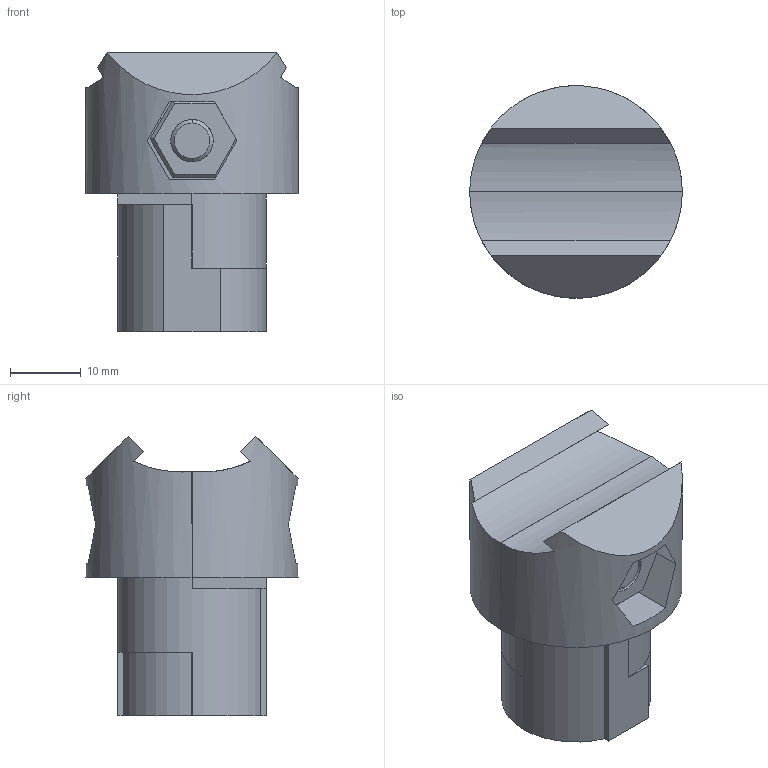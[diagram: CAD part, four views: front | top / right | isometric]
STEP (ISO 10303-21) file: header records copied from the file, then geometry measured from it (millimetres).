
FILE_DESCRIPTION (( 'STEP AP203' ), '1' );
FILE_NAME ('1100.STEP', '2016-05-29T11:45:39', ( 'RosInstal-MKM' ), ( '' ), 'SwSTEP 2.0', 'SolidWorks 2014', '' );
FILE_SCHEMA (( 'CONFIG_CONTROL_DESIGN' ));
Length unit declared in the file: millimetre
Products named in the file (4): ãàéêà3; 1100; 櫻蠉錪1; 鎔艜3
Assembly tree (4 placements, depth 2):
  1100
    櫻蠉錪1  x2
    鎔艜3
    ãàéêà3
Bounding box: 30 x 30 x 39.52 mm (x, y, z)
Volume: 16893.5 mm3; surface area: 8800.2 mm2
Topology: 4 solids, 4 shells, 128 faces, 306 edges, 184 vertices
Faces by surface type: plane 72, cylinder 37, torus 11, sphere 6, cone 2
Entity records: 3254 total; most frequent: CARTESIAN_POINT 523, DIRECTION 515, ORIENTED_EDGE 456, EDGE_CURVE 228, AXIS2_PLACEMENT_3D 190, VERTEX_POINT 136, VECTOR 135, LINE 135
